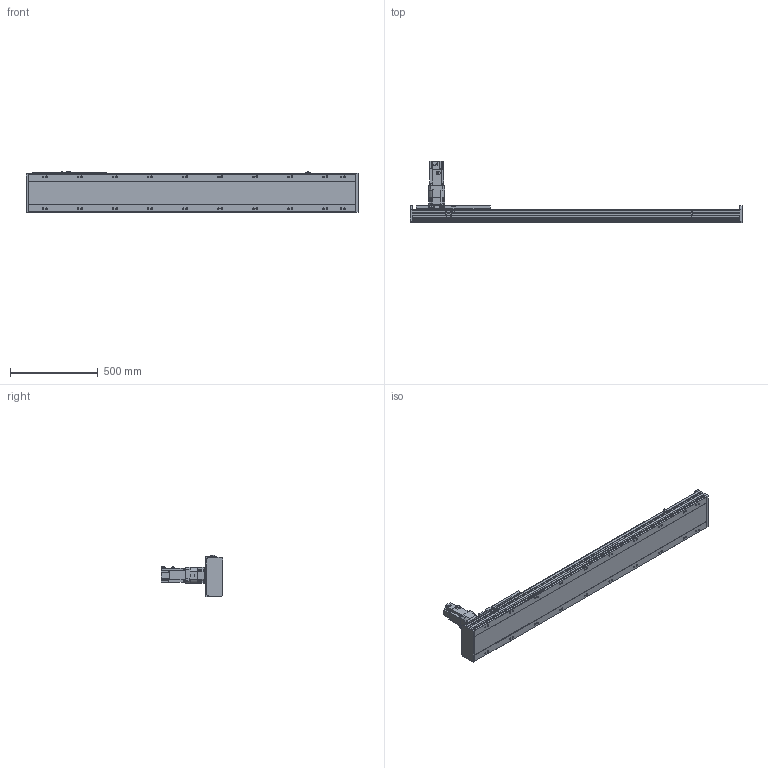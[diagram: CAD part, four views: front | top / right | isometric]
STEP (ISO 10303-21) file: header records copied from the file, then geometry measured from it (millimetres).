
FILE_DESCRIPTION(/* description */ ('STEP AP214'),/* implementation_level */ '2;1');
FILE_NAME(/* name */ 'SHS22A-L13-S1400-BC-T75-C1-N(0)',/* time_stamp */ '2022-06-15T02:26:23+02:00',/* author */ ('License CC BY-ND 4.0'),/* organization */ ('CADENAS'),/* preprocessor_version */ 'ST-DEVELOPER v18.102',/* originating_system */ 'PARTsolutions',/* authorisation */ ' ');
FILE_SCHEMA (('AUTOMOTIVE_DESIGN {1 0 10303 214 3 1 1}'));
Length unit declared in the file: millimetre
Products named in the file (7): SHS22A-L13-S1400-BC-T75-C1-N(0); PSC140-sensor; SHS22A-S1400_body2; T75-p1; SHS22A-S1400_body3; SHS22A-S1400_slider; SHS22A-L13-S1400-BC-T75-C1(0)_body
Assembly tree (13 placements, depth 2):
  SHS22A-L13-S1400-BC-T75-C1-N(0)
    PSC140-sensor  x3
    SHS22A-S1400_body2  x6
    T75-p1
    SHS22A-S1400_body3
    SHS22A-S1400_slider
    SHS22A-L13-S1400-BC-T75-C1(0)_body
Bounding box: 1894 x 350.8 x 238.4 mm (x, y, z)
Volume: 22338128 mm3; surface area: 2376070.8 mm2
Topology: 13 solids, 13 shells, 1821 faces, 4695 edges, 3076 vertices
Faces by surface type: plane 1320, cylinder 407, cone 85, torus 9
Full cylindrical faces by diameter (mm): 2.8 x3, 4.2 x2, 4.6 x3, 4.917 x4, 5 x4, 5.6 x24, 6 x31, 6.6 x24, 6.647 x8, 6.8 x9, 7.75 x6, 8 x3, 8.376 x20, 8.5 x20, 10 x4, 11 x4, 12 x24, 14 x20, 22 x1, 24.1 x1, 28 x1, 28.2 x1, 28.8 x1, 48.542 x1, 68 x1, 70 x1, 78 x1, 80 x2
Entity records: 29722 total; most frequent: CARTESIAN_POINT 5273, DIRECTION 5027, ORIENTED_EDGE 4620, EDGE_CURVE 2310, AXIS2_PLACEMENT_3D 1732, VERTEX_POINT 1646, LINE 1563, VECTOR 1563
